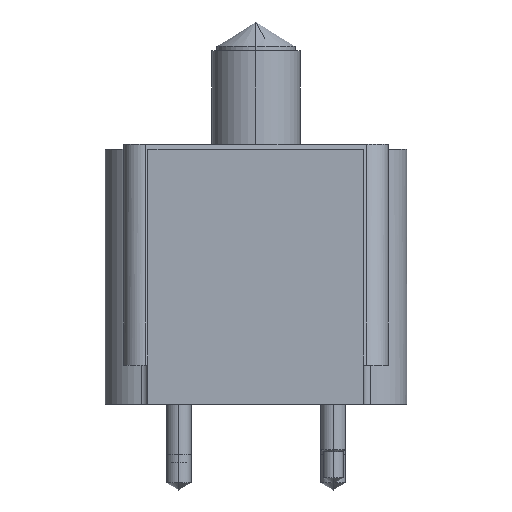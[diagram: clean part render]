
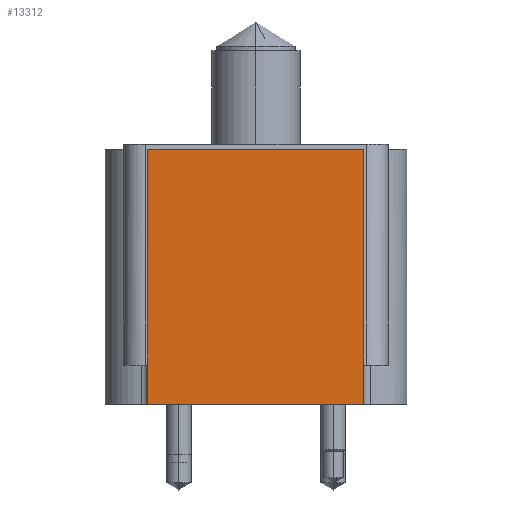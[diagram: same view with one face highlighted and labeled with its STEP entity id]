
A CAD part, left-side view. The second image highlights one B-rep face of the part: STEP entity #13312.
In plain terms, the highlighted planar face has unit normal (-1, 0, 0).
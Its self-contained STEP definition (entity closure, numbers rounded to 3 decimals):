
#12944=CARTESIAN_POINT('',(-84.201,34.988,82.55));
#12945=VERTEX_POINT('',#12944);
#12952=CARTESIAN_POINT('',(-84.201,-34.988,82.55));
#12953=VERTEX_POINT('',#12952);
#12954=CARTESIAN_POINT('',(-84.201,0.0,82.55));
#12955=DIRECTION('',(0.0,1.0,0.0));
#12956=VECTOR('',#12955,1.0);
#12957=LINE('',#12954,#12956);
#12958=EDGE_CURVE('',#12953,#12945,#12957,.T.);
#13282=CARTESIAN_POINT('',(-84.201,34.988,0.0));
#13283=VERTEX_POINT('',#13282);
#13284=CARTESIAN_POINT('',(-84.201,34.988,0.0));
#13285=DIRECTION('',(0.0,0.0,1.0));
#13286=VECTOR('',#13285,1.0);
#13287=LINE('',#13284,#13286);
#13288=EDGE_CURVE('',#13283,#12945,#13287,.T.);
#13289=ORIENTED_EDGE('',*,*,#13288,.F.);
#13290=CARTESIAN_POINT('',(-84.201,-34.988,0.0));
#13291=VERTEX_POINT('',#13290);
#13292=CARTESIAN_POINT('',(-84.201,0.0,0.0));
#13293=DIRECTION('',(0.0,-1.0,0.0));
#13294=VECTOR('',#13293,1.0);
#13295=LINE('',#13292,#13294);
#13296=EDGE_CURVE('',#13283,#13291,#13295,.T.);
#13297=ORIENTED_EDGE('',*,*,#13296,.T.);
#13298=CARTESIAN_POINT('',(-84.201,-34.988,0.0));
#13299=DIRECTION('',(0.0,0.0,-1.0));
#13300=VECTOR('',#13299,1.0);
#13301=LINE('',#13298,#13300);
#13302=EDGE_CURVE('',#12953,#13291,#13301,.T.);
#13303=ORIENTED_EDGE('',*,*,#13302,.F.);
#13304=ORIENTED_EDGE('',*,*,#12958,.T.);
#13305=EDGE_LOOP('',(#13289,#13297,#13303,#13304));
#13306=FACE_OUTER_BOUND('',#13305,.T.);
#13307=CARTESIAN_POINT('',(-84.201,0.0,0.0));
#13308=DIRECTION('',(-1.0,0.0,-0.0));
#13309=DIRECTION('',(-0.0,0.0,1.0));
#13310=AXIS2_PLACEMENT_3D('',#13307,#13308,#13309);
#13311=PLANE('',#13310);
#13312=ADVANCED_FACE('',(#13306),#13311,.T.);
